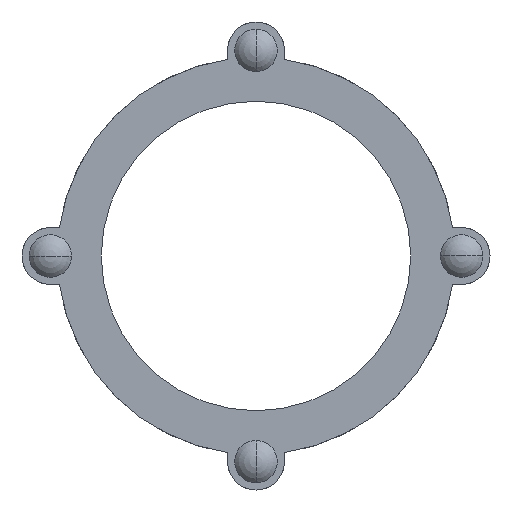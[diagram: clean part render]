
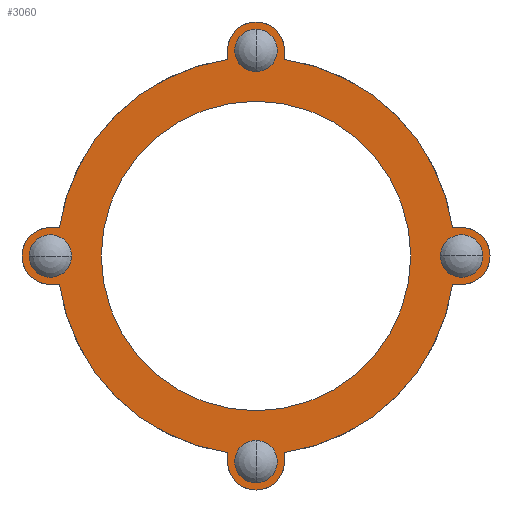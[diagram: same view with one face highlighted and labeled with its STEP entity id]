
A CAD part, left-side view. The second image highlights one B-rep face of the part: STEP entity #3060.
In plain terms, the highlighted planar face has unit normal (-1, 0, 0).
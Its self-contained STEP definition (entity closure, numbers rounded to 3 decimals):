
#2=CARTESIAN_POINT('',(-78.5,0.,-123.25));
#3=DIRECTION('',(1.,0.,0.));
#4=DIRECTION('',(0.,0.,-1.));
#5=AXIS2_PLACEMENT_3D('',#2,#3,#4);
#7=CARTESIAN_POINT('',(-78.5,0.,-123.25));
#8=DIRECTION('',(1.,0.,0.));
#9=DIRECTION('',(0.,0.,1.));
#10=AXIS2_PLACEMENT_3D('',#7,#8,#9);
#12=CARTESIAN_POINT('',(-78.5,0.,123.25));
#13=DIRECTION('',(1.,0.,0.));
#14=DIRECTION('',(0.,0.,1.));
#15=AXIS2_PLACEMENT_3D('',#12,#13,#14);
#17=CARTESIAN_POINT('',(-78.5,0.,123.25));
#18=DIRECTION('',(1.,0.,0.));
#19=DIRECTION('',(0.,0.,-1.));
#20=AXIS2_PLACEMENT_3D('',#17,#18,#19);
#22=CARTESIAN_POINT('',(-78.5,123.25,0.));
#23=DIRECTION('',(1.,0.,0.));
#24=DIRECTION('',(0.,1.,0.));
#25=AXIS2_PLACEMENT_3D('',#22,#23,#24);
#27=CARTESIAN_POINT('',(-78.5,123.25,0.));
#28=DIRECTION('',(1.,0.,0.));
#29=DIRECTION('',(0.,-1.,0.));
#30=AXIS2_PLACEMENT_3D('',#27,#28,#29);
#32=DIRECTION('',(0.,-1.,0.));
#33=VECTOR('',#32,5.471);
#34=CARTESIAN_POINT('',(-78.5,123.25,-17.));
#35=LINE('',#34,#33);
#36=CARTESIAN_POINT('',(-78.5,123.25,0.));
#37=DIRECTION('',(-1.,0.,0.));
#38=DIRECTION('',(0.,0.,1.));
#39=AXIS2_PLACEMENT_3D('',#36,#37,#38);
#41=DIRECTION('',(0.,1.,0.));
#42=VECTOR('',#41,5.471);
#43=CARTESIAN_POINT('',(-78.5,117.779,17.));
#44=LINE('',#43,#42);
#45=CARTESIAN_POINT('',(-78.5,-123.25,0.));
#46=DIRECTION('',(1.,0.,0.));
#47=DIRECTION('',(0.,-1.,0.));
#48=AXIS2_PLACEMENT_3D('',#45,#46,#47);
#50=CARTESIAN_POINT('',(-78.5,-123.25,0.));
#51=DIRECTION('',(1.,0.,0.));
#52=DIRECTION('',(0.,1.,0.));
#53=AXIS2_PLACEMENT_3D('',#50,#51,#52);
#139=CARTESIAN_POINT('',(-78.5,0.,0.));
#140=DIRECTION('',(1.,0.,0.));
#141=DIRECTION('',(0.,1.,0.));
#142=AXIS2_PLACEMENT_3D('',#139,#140,#141);
#152=CARTESIAN_POINT('',(-78.5,0.,0.));
#153=DIRECTION('',(-1.,0.,0.));
#154=DIRECTION('',(0.,1.,0.));
#155=AXIS2_PLACEMENT_3D('',#152,#153,#154);
#1005=CARTESIAN_POINT('',(-78.5,0.,0.));
#1006=DIRECTION('',(-1.,0.,0.));
#1007=DIRECTION('',(0.,-0.99,0.143));
#1008=AXIS2_PLACEMENT_3D('',#1005,#1006,#1007);
#1019=CARTESIAN_POINT('',(-78.5,0.,0.));
#1020=DIRECTION('',(-1.,0.,0.));
#1021=DIRECTION('',(0.,0.143,0.99));
#1022=AXIS2_PLACEMENT_3D('',#1019,#1020,#1021);
#1068=CARTESIAN_POINT('',(-78.5,0.,0.));
#1069=DIRECTION('',(-1.,0.,0.));
#1070=DIRECTION('',(0.,0.99,-0.143));
#1071=AXIS2_PLACEMENT_3D('',#1068,#1069,#1070);
#1073=CARTESIAN_POINT('',(-78.5,0.,0.));
#1074=DIRECTION('',(-1.,0.,0.));
#1075=DIRECTION('',(0.,-0.143,-0.99));
#1076=AXIS2_PLACEMENT_3D('',#1073,#1074,#1075);
#1135=DIRECTION('',(0.,-1.,0.));
#1136=VECTOR('',#1135,5.471);
#1137=CARTESIAN_POINT('',(-78.5,-117.779,-17.));
#1138=LINE('',#1137,#1136);
#1147=CARTESIAN_POINT('',(-78.5,-123.25,0.));
#1148=DIRECTION('',(-1.,0.,0.));
#1149=DIRECTION('',(0.,0.,-1.));
#1150=AXIS2_PLACEMENT_3D('',#1147,#1148,#1149);
#1170=DIRECTION('',(0.,1.,0.));
#1171=VECTOR('',#1170,5.471);
#1172=CARTESIAN_POINT('',(-78.5,-123.25,17.));
#1173=LINE('',#1172,#1171);
#1186=DIRECTION('',(0.,0.,1.));
#1187=VECTOR('',#1186,5.471);
#1188=CARTESIAN_POINT('',(-78.5,-17.,117.779));
#1189=LINE('',#1188,#1187);
#1198=CARTESIAN_POINT('',(-78.5,0.,123.25));
#1199=DIRECTION('',(-1.,0.,0.));
#1200=DIRECTION('',(0.,-1.,0.));
#1201=AXIS2_PLACEMENT_3D('',#1198,#1199,#1200);
#1221=DIRECTION('',(0.,0.,-1.));
#1222=VECTOR('',#1221,5.471);
#1223=CARTESIAN_POINT('',(-78.5,17.,123.25));
#1224=LINE('',#1223,#1222);
#1756=DIRECTION('',(0.,0.,-1.));
#1757=VECTOR('',#1756,5.471);
#1758=CARTESIAN_POINT('',(-78.5,17.,-117.779));
#1759=LINE('',#1758,#1757);
#1768=CARTESIAN_POINT('',(-78.5,0.,-123.25));
#1769=DIRECTION('',(-1.,0.,0.));
#1770=DIRECTION('',(0.,1.,0.));
#1771=AXIS2_PLACEMENT_3D('',#1768,#1769,#1770);
#1791=DIRECTION('',(0.,0.,1.));
#1792=VECTOR('',#1791,5.471);
#1793=CARTESIAN_POINT('',(-78.5,-17.,-123.25));
#1794=LINE('',#1793,#1792);
#2332=CARTESIAN_POINT('',(-78.5,92.75,0.));
#2334=VERTEX_POINT('',#2332);
#2344=CARTESIAN_POINT('',(-78.5,-92.75,0.));
#2346=VERTEX_POINT('',#2344);
#2360=CARTESIAN_POINT('',(-78.5,123.25,17.));
#2361=CARTESIAN_POINT('',(-78.5,123.25,-17.));
#2362=VERTEX_POINT('',#2360);
#2363=VERTEX_POINT('',#2361);
#2365=CARTESIAN_POINT('',(-78.5,117.779,17.));
#2367=VERTEX_POINT('',#2365);
#2368=CARTESIAN_POINT('',(-78.5,117.779,-17.));
#2370=VERTEX_POINT('',#2368);
#2512=CARTESIAN_POINT('',(-78.5,17.,123.25));
#2513=VERTEX_POINT('',#2512);
#2514=CARTESIAN_POINT('',(-78.5,-17.,123.25));
#2515=VERTEX_POINT('',#2514);
#2576=CARTESIAN_POINT('',(-78.5,-123.25,17.));
#2577=VERTEX_POINT('',#2576);
#2578=CARTESIAN_POINT('',(-78.5,-123.25,-17.));
#2579=VERTEX_POINT('',#2578);
#2640=CARTESIAN_POINT('',(-78.5,-17.,-123.25));
#2641=VERTEX_POINT('',#2640);
#2642=CARTESIAN_POINT('',(-78.5,17.,-123.25));
#2643=VERTEX_POINT('',#2642);
#2664=CARTESIAN_POINT('',(-78.5,-17.,117.779));
#2665=VERTEX_POINT('',#2664);
#2666=CARTESIAN_POINT('',(-78.5,17.,117.779));
#2667=VERTEX_POINT('',#2666);
#2692=CARTESIAN_POINT('',(-78.5,-117.779,-17.));
#2693=VERTEX_POINT('',#2692);
#2694=CARTESIAN_POINT('',(-78.5,-117.779,17.));
#2695=VERTEX_POINT('',#2694);
#2720=CARTESIAN_POINT('',(-78.5,17.,-117.779));
#2721=VERTEX_POINT('',#2720);
#2722=CARTESIAN_POINT('',(-78.5,-17.,-117.779));
#2723=VERTEX_POINT('',#2722);
#2752=CARTESIAN_POINT('',(-78.5,136.,0.));
#2753=CARTESIAN_POINT('',(-78.5,110.5,0.));
#2754=VERTEX_POINT('',#2752);
#2755=VERTEX_POINT('',#2753);
#2928=CARTESIAN_POINT('',(-78.5,0.,136.));
#2929=VERTEX_POINT('',#2928);
#2930=CARTESIAN_POINT('',(-78.5,0.,110.5));
#2931=VERTEX_POINT('',#2930);
#2944=CARTESIAN_POINT('',(-78.5,-136.,0.));
#2945=VERTEX_POINT('',#2944);
#2946=CARTESIAN_POINT('',(-78.5,-110.5,0.));
#2947=VERTEX_POINT('',#2946);
#2960=CARTESIAN_POINT('',(-78.5,0.,-136.));
#2961=VERTEX_POINT('',#2960);
#2962=CARTESIAN_POINT('',(-78.5,0.,-110.5));
#2963=VERTEX_POINT('',#2962);
#2992=CARTESIAN_POINT('',(-78.5,0.,0.));
#2993=DIRECTION('',(1.,0.,0.));
#2994=DIRECTION('',(0.,-1.,0.));
#2995=AXIS2_PLACEMENT_3D('',#2992,#2993,#2994);
#2996=PLANE('',#2995);
#2998=ORIENTED_EDGE('',*,*,#2997,.F.);
#3000=ORIENTED_EDGE('',*,*,#2999,.F.);
#3002=ORIENTED_EDGE('',*,*,#3001,.F.);
#3004=ORIENTED_EDGE('',*,*,#3003,.F.);
#3006=ORIENTED_EDGE('',*,*,#3005,.F.);
#3008=ORIENTED_EDGE('',*,*,#3007,.F.);
#3010=ORIENTED_EDGE('',*,*,#3009,.F.);
#3012=ORIENTED_EDGE('',*,*,#3011,.F.);
#3014=ORIENTED_EDGE('',*,*,#3013,.F.);
#3016=ORIENTED_EDGE('',*,*,#3015,.F.);
#3018=ORIENTED_EDGE('',*,*,#3017,.F.);
#3020=ORIENTED_EDGE('',*,*,#3019,.F.);
#3022=ORIENTED_EDGE('',*,*,#3021,.F.);
#3024=ORIENTED_EDGE('',*,*,#3023,.F.);
#3026=ORIENTED_EDGE('',*,*,#3025,.F.);
#3028=ORIENTED_EDGE('',*,*,#3027,.F.);
#3029=EDGE_LOOP('',(#2998,#3000,#3002,#3004,#3006,#3008,#3010,#3012,#3014,#3016,
#3018,#3020,#3022,#3024,#3026,#3028));
#3030=FACE_OUTER_BOUND('',#3029,.F.);
#3032=ORIENTED_EDGE('',*,*,#3031,.F.);
#3034=ORIENTED_EDGE('',*,*,#3033,.F.);
#3035=EDGE_LOOP('',(#3032,#3034));
#3036=FACE_BOUND('',#3035,.F.);
#3038=ORIENTED_EDGE('',*,*,#3037,.F.);
#3040=ORIENTED_EDGE('',*,*,#3039,.F.);
#3041=EDGE_LOOP('',(#3038,#3040));
#3042=FACE_BOUND('',#3041,.F.);
#3044=ORIENTED_EDGE('',*,*,#3043,.F.);
#3046=ORIENTED_EDGE('',*,*,#3045,.T.);
#3047=EDGE_LOOP('',(#3044,#3046));
#3048=FACE_BOUND('',#3047,.F.);
#3050=ORIENTED_EDGE('',*,*,#3049,.F.);
#3052=ORIENTED_EDGE('',*,*,#3051,.F.);
#3053=EDGE_LOOP('',(#3050,#3052));
#3054=FACE_BOUND('',#3053,.F.);
#3055=ORIENTED_EDGE('',*,*,#2981,.F.);
#3057=ORIENTED_EDGE('',*,*,#3056,.F.);
#3058=EDGE_LOOP('',(#3055,#3057));
#3059=FACE_BOUND('',#3058,.F.);
#3060=ADVANCED_FACE('',(#3030,#3036,#3042,#3048,#3054,#3059),#2996,.F.);
#6=CIRCLE('',#5,12.75);
#11=CIRCLE('',#10,12.75);
#16=CIRCLE('',#15,12.75);
#21=CIRCLE('',#20,12.75);
#26=CIRCLE('',#25,12.75);
#31=CIRCLE('',#30,12.75);
#40=CIRCLE('',#39,17.);
#49=CIRCLE('',#48,12.75);
#54=CIRCLE('',#53,12.75);
#143=CIRCLE('',#142,92.75);
#156=CIRCLE('',#155,92.75);
#1009=CIRCLE('',#1008,119.);
#1023=CIRCLE('',#1022,119.);
#1072=CIRCLE('',#1071,119.);
#1077=CIRCLE('',#1076,119.);
#1151=CIRCLE('',#1150,17.);
#1202=CIRCLE('',#1201,17.);
#1772=CIRCLE('',#1771,17.);
#2981=EDGE_CURVE('',#2945,#2947,#49,.T.);
#2997=EDGE_CURVE('',#2723,#2693,#1077,.T.);
#2999=EDGE_CURVE('',#2641,#2723,#1794,.T.);
#3001=EDGE_CURVE('',#2643,#2641,#1772,.T.);
#3003=EDGE_CURVE('',#2721,#2643,#1759,.T.);
#3005=EDGE_CURVE('',#2370,#2721,#1072,.T.);
#3007=EDGE_CURVE('',#2363,#2370,#35,.T.);
#3009=EDGE_CURVE('',#2362,#2363,#40,.T.);
#3011=EDGE_CURVE('',#2367,#2362,#44,.T.);
#3013=EDGE_CURVE('',#2667,#2367,#1023,.T.);
#3015=EDGE_CURVE('',#2513,#2667,#1224,.T.);
#3017=EDGE_CURVE('',#2515,#2513,#1202,.T.);
#3019=EDGE_CURVE('',#2665,#2515,#1189,.T.);
#3021=EDGE_CURVE('',#2695,#2665,#1009,.T.);
#3023=EDGE_CURVE('',#2577,#2695,#1173,.T.);
#3025=EDGE_CURVE('',#2579,#2577,#1151,.T.);
#3027=EDGE_CURVE('',#2693,#2579,#1138,.T.);
#3031=EDGE_CURVE('',#2929,#2931,#16,.T.);
#3033=EDGE_CURVE('',#2931,#2929,#21,.T.);
#3037=EDGE_CURVE('',#2754,#2755,#26,.T.);
#3039=EDGE_CURVE('',#2755,#2754,#31,.T.);
#3043=EDGE_CURVE('',#2334,#2346,#143,.T.);
#3045=EDGE_CURVE('',#2334,#2346,#156,.T.);
#3049=EDGE_CURVE('',#2961,#2963,#6,.T.);
#3051=EDGE_CURVE('',#2963,#2961,#11,.T.);
#3056=EDGE_CURVE('',#2947,#2945,#54,.T.);
